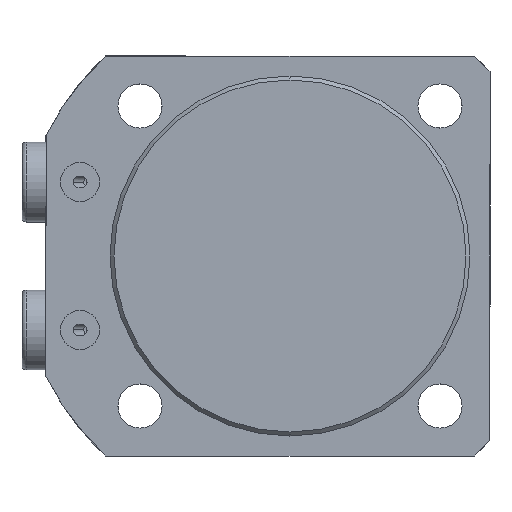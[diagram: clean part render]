
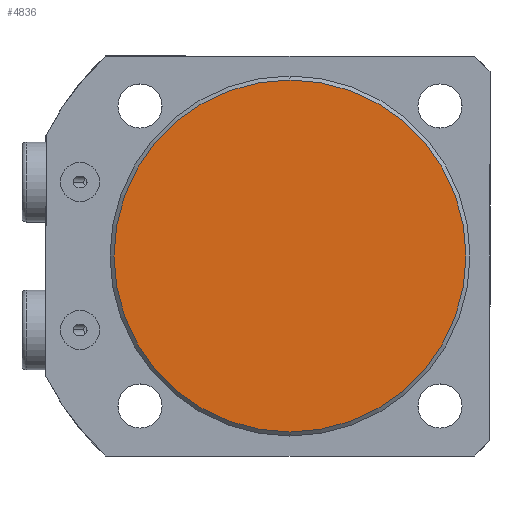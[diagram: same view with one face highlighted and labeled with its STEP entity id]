
A CAD part, front view. The second image highlights one B-rep face of the part: STEP entity #4836.
In plain terms, the highlighted planar face has unit normal (0, -1, 0).
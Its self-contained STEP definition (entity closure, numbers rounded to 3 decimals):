
#119 = AXIS2_PLACEMENT_3D ( 'NONE', #7403, #3855, #292 ) ;
#255 = DIRECTION ( 'NONE',  ( 0., 1., 0. ) ) ;
#292 = DIRECTION ( 'NONE',  ( 0., 0., 1. ) ) ;
#541 = AXIS2_PLACEMENT_3D ( 'NONE', #5572, #255, #4402 ) ;
#1769 = CARTESIAN_POINT ( 'NONE',  ( 0., 0., 0. ) ) ;
#1784 = EDGE_CURVE ( 'NONE', #5462, #2616, #2781, .T. ) ;
#1807 = DIRECTION ( 'NONE',  ( 0., -1., 0. ) ) ;
#2013 = PLANE ( 'NONE',  #541 ) ;
#2616 = VERTEX_POINT ( 'NONE', #5878 ) ;
#2781 = CIRCLE ( 'NONE', #6033, 44. ) ;
#3299 = ORIENTED_EDGE ( 'NONE', *, *, #1784, .T. ) ;
#3855 = DIRECTION ( 'NONE',  ( 0., -1., 0. ) ) ;
#4402 = DIRECTION ( 'NONE',  ( 0., 0., 1. ) ) ;
#4602 = CARTESIAN_POINT ( 'NONE',  ( 0., 0., -44. ) ) ;
#4836 = ADVANCED_FACE ( 'NONE', ( #6050 ), #2013, .F. ) ;
#5150 = EDGE_LOOP ( 'NONE', ( #6881, #3299 ) ) ;
#5462 = VERTEX_POINT ( 'NONE', #4602 ) ;
#5537 = DIRECTION ( 'NONE',  ( 0., 0., 1. ) ) ;
#5572 = CARTESIAN_POINT ( 'NONE',  ( 0., 0., 0. ) ) ;
#5878 = CARTESIAN_POINT ( 'NONE',  ( 0., 0., 44. ) ) ;
#6033 = AXIS2_PLACEMENT_3D ( 'NONE', #1769, #1807, #5537 ) ;
#6050 = FACE_OUTER_BOUND ( 'NONE', #5150, .T. ) ;
#6589 = CIRCLE ( 'NONE', #119, 44. ) ;
#6881 = ORIENTED_EDGE ( 'NONE', *, *, #7131, .T. ) ;
#7131 = EDGE_CURVE ( 'NONE', #2616, #5462, #6589, .T. ) ;
#7403 = CARTESIAN_POINT ( 'NONE',  ( 0., 0., 0. ) ) ;
